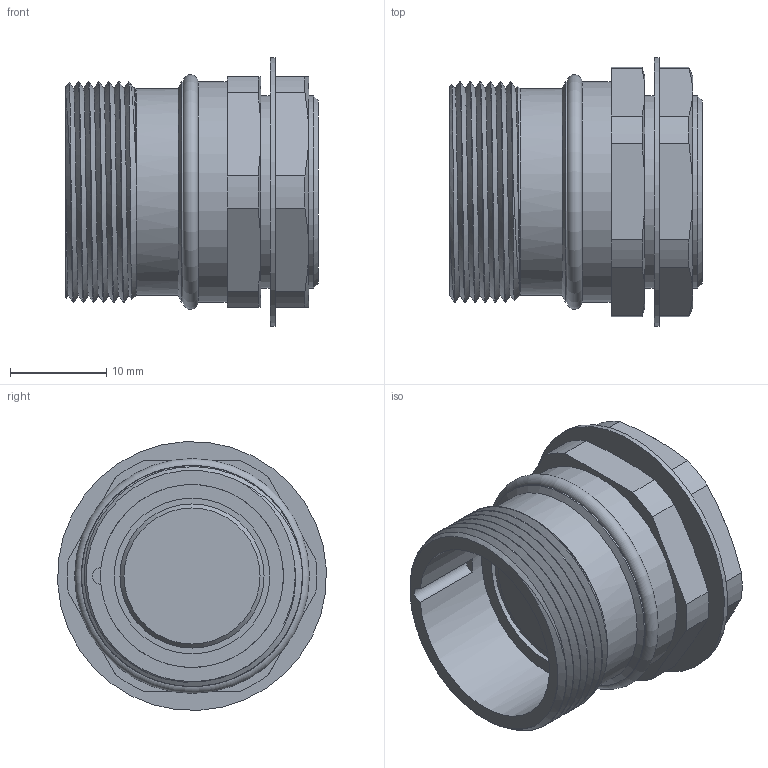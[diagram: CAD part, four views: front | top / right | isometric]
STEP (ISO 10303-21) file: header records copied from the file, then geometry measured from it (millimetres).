
FILE_DESCRIPTION (( 'STEP AP203' ), '1' );
FILE_NAME ('CSF.step', '2020-11-02T19:06:08', ( '' ), ( '' ), 'SwSTEP 2.0', 'SolidWorks 2019', '' );
FILE_SCHEMA (( 'CONFIG_CONTROL_DESIGN' ));
Length unit declared in the file: millimetre
Products named in the file (1): CSF
Bounding box: 26.3 x 27.96 x 27.96 mm (x, y, z)
Volume: 8225.9 mm3; surface area: 5079 mm2
Topology: 1 solids, 1 shells, 72 faces, 162 edges, 103 vertices
Faces by surface type: plane 26, cylinder 24, cone 19, bspline 2, torus 1
Full cylindrical faces by diameter (mm): 16.2 x1, 19.05 x1, 20 x2, 20.2 x1, 20.5 x1, 21.5 x1, 22.936 x2, 28 x1
Entity records: 4840 total; most frequent: CARTESIAN_POINT 3296, DIRECTION 308, ORIENTED_EDGE 278, EDGE_CURVE 139, AXIS2_PLACEMENT_3D 135, EDGE_LOOP 99, VERTEX_POINT 96, FACE_OUTER_BOUND 83
